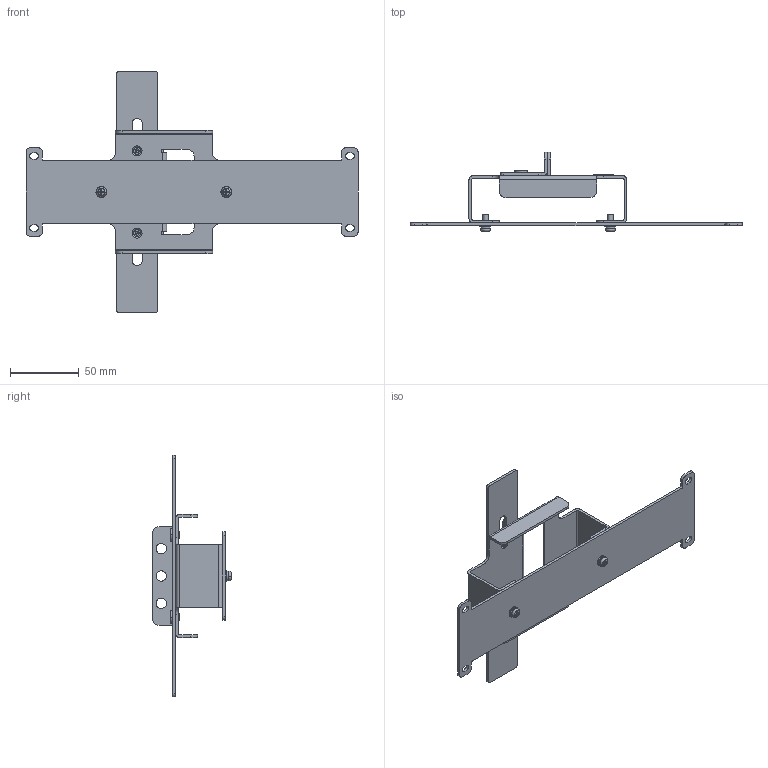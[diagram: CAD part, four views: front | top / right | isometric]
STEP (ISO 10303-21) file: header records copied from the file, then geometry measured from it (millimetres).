
FILE_DESCRIPTION((''),'2;1');
FILE_NAME('U6_INTERLOCK_ASSY_ASM','2018-06-04T',('HHI'),(''),'PRO/ENGINEER BY PARAMETRIC TECHNOLOGY CORPORATION, 2012453','PRO/ENGINEER BY PARAMETRIC TECHNOLOGY CORPORATION, 2012453','');
FILE_SCHEMA(('CONFIG_CONTROL_DESIGN'));
Length unit declared in the file: millimetre
Products named in the file (11): U6_INTERLOCK_ASSY_SKEL_SKEL0001; U6_INTERLOCK_FRAME; U6_INTERLOCK_GUIDE; U6_INTERLOCK_BAR; U6_LEVER_PIN; U6_MIF_63GP_3_LABEL; M4_L10_PH_SCREW; D4_ASSY2_SPRING_WASHER; D4_SMALL_PLAIN_WASHER; M4_L10_P_SW_PH_SCREW_ASM; U6_INTERLOCK_ASSY_ASM
Assembly tree (12 placements, depth 3):
  U6_INTERLOCK_ASSY_ASM
    U6_INTERLOCK_ASSY_SKEL_SKEL0001
    U6_INTERLOCK_FRAME
    U6_INTERLOCK_GUIDE
    U6_INTERLOCK_BAR
    U6_LEVER_PIN  x2
    U6_MIF_63GP_3_LABEL
    M4_L10_P_SW_PH_SCREW_ASM  x2
      M4_L10_PH_SCREW
      D4_ASSY2_SPRING_WASHER
      D4_SMALL_PLAIN_WASHER
Bounding box: 242 x 57.87 x 176 mm (x, y, z)
Volume: 64443.1 mm3; surface area: 70354.6 mm2
Topology: 12 solids, 12 shells, 477 faces, 1275 edges, 840 vertices
Faces by surface type: plane 212, cylinder 134, extrusion 103, torus 16, cone 8, sphere 4
Entity records: 13790 total; most frequent: CARTESIAN_POINT 3206, ORIENTED_EDGE 2244, DIRECTION 1937, EDGE_CURVE 1122, VECTOR 745, VERTEX_POINT 743, LINE 642, AXIS2_PLACEMENT_3D 596
